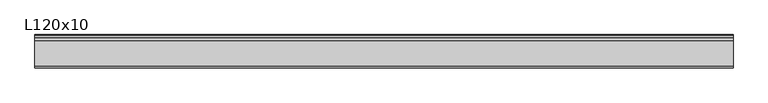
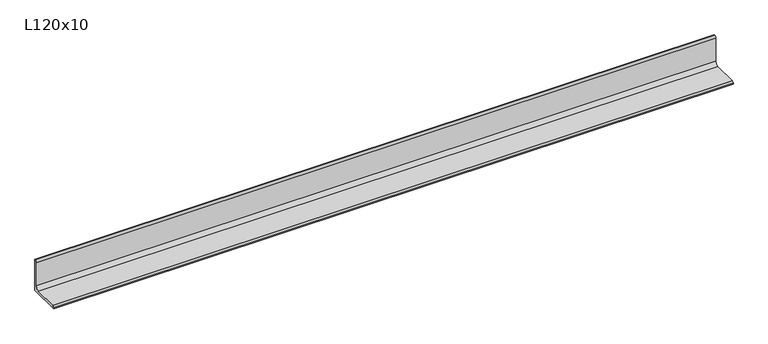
"""IFC4 building model written with IfcOpenShell, lengths in millimetres: beam geometry, L ali uguali : L120x10."""

import ifcopenshell
import ifcopenshell.guid

model = None  # the IFC model being written
_history = None  # IfcOwnerHistory: only IFC2X3 demands one
_inside = {}  # id of a spatial element -> (the spatial element, [elements in it])
_under = {}  # id of a project, library or spatial element -> (it, [spatial elements below it])
_declared = {}  # id of a project -> (the project, [libraries it declares])
_typed = {}  # id of a type object -> (the type object, [elements of that type])
_made_of = {}  # id of a material, layer set ... -> (it, [elements and type objects made of it])


def new_model(schema):
    """Start an empty IFC model of exactly this schema.

    Asked for "IFC4X3", IfcOpenShell would pick the latest addendum, in which some entities
    have other attributes; the version numbers below select the first issue.
    IFC2X3 requires an IfcOwnerHistory on every rooted entity: one is made here for all.
    """
    global model, _history
    if schema == "IFC4X3":
        model = ifcopenshell.file(schema_version=(4, 3, 0, 0))
    else:
        model = ifcopenshell.file(schema=schema)
    _inside.clear()
    _under.clear()
    _declared.clear()
    _typed.clear()
    _made_of.clear()
    _history = None
    if model.schema == "IFC2X3":
        org = make("IfcOrganization", Name="unknown")
        user = make(
            "IfcPersonAndOrganization",
            ThePerson=make("IfcPerson", FamilyName="unknown"),
            TheOrganization=org,
        )
        app = make(
            "IfcApplication",
            ApplicationDeveloper=org,
            Version="unknown",
            ApplicationFullName="unknown",
            ApplicationIdentifier="unknown",
        )
        _history = make(
            "IfcOwnerHistory",
            OwningUser=user,
            OwningApplication=app,
            ChangeAction="ADDED",
            CreationDate=0,
        )
    return model


def make(cls, **values):
    """One entity of the class cls with the attributes given. An attribute that is None is left unset."""
    return model.create_entity(
        cls, **{name: value for name, value in values.items() if value is not None}
    )


def rooted(cls, **values):
    """An entity with a GlobalId (a new one), such as an element, a storey or a relation."""
    return make(cls, GlobalId=ifcopenshell.guid.new(), OwnerHistory=_history, **values)


def si_unit(unit_type, name, prefix=None):
    """IfcSIUnit, for example si_unit("LENGTHUNIT", "METRE", prefix="MILLI")."""
    return make("IfcSIUnit", UnitType=unit_type, Prefix=prefix, Name=name)


def assignment(units):
    """IfcUnitAssignment: the units of a project."""
    return None if units is None else make("IfcUnitAssignment", Units=units)


def point(xyz):
    """IfcCartesianPoint."""
    return None if xyz is None else make("IfcCartesianPoint", Coordinates=xyz)


def direction(xyz):
    """IfcDirection."""
    return None if xyz is None else make("IfcDirection", DirectionRatios=xyz)


def frame(location, z_axis=None, x_axis=None):
    """IfcAxis2Placement3D, a coordinate frame: its origin and axes. An axis left out is left unset."""
    return make(
        "IfcAxis2Placement3D",
        Location=point(location),
        Axis=direction(z_axis),
        RefDirection=direction(x_axis),
    )


def frame_2d(location, x_axis=None):
    """IfcAxis2Placement2D, a coordinate frame in the plane: its origin and x axis."""
    return make(
        "IfcAxis2Placement2D", Location=point(location), RefDirection=direction(x_axis)
    )


def origin():
    """The frame at (0, 0, 0) with its axes left unset."""
    return frame((0.0, 0.0, 0.0))


def place(relative_to, where):
    """IfcLocalPlacement: puts the frame where relative to a parent placement (None: the world)."""
    return make(
        "IfcLocalPlacement", PlacementRelTo=relative_to, RelativePlacement=where
    )


def context(
    kind, dimensions, precision=None, world=None, true_north=None, identifier=None
):
    """IfcGeometricRepresentationContext, for example the 3D "Model" context."""
    return make(
        "IfcGeometricRepresentationContext",
        ContextIdentifier=identifier,
        ContextType=kind,
        CoordinateSpaceDimension=dimensions,
        Precision=precision,
        WorldCoordinateSystem=world,
        TrueNorth=true_north,
    )


def project(units=None, contexts=None):
    """IfcProject with its units and contexts."""
    return rooted(
        "IfcProject",
        Name="project",
        RepresentationContexts=contexts,
        UnitsInContext=assignment(units),
    )


def spatial(cls, under=None, at=None, **own):
    """A site, building, storey or space (cls), placed at a placement, below another one or the project."""
    s = rooted(cls, ObjectPlacement=at, **own)
    if under is not None:
        _under.setdefault(under.id(), (under, []))[1].append(s)
    return s


def polyline(points):
    """IfcPolyline through the points."""
    return make("IfcPolyline", Points=[point(p) for p in points])


def circle_curve(where, radius):
    """IfcCircle in the frame where."""
    return make("IfcCircle", Position=where, Radius=radius)


def trimmed(basis, trim1, trim2, sense, master):
    """IfcTrimmedCurve: the piece of a basis curve between two trims."""
    return make(
        "IfcTrimmedCurve",
        BasisCurve=basis,
        Trim1=trim1,
        Trim2=trim2,
        SenseAgreement=sense,
        MasterRepresentation=master,
    )


def segment(curve, same_sense, transition):
    """IfcCompositeCurveSegment."""
    return make(
        "IfcCompositeCurveSegment",
        Transition=transition,
        SameSense=same_sense,
        ParentCurve=curve,
    )


def composite_curve(segments, self_intersect=None):
    """IfcCompositeCurve: segments joined end to end."""
    return make("IfcCompositeCurve", Segments=segments, SelfIntersect=self_intersect)


def outline(outer, holes=None, kind="AREA"):
    """IfcArbitraryClosedProfileDef: a profile drawn as a closed curve; with holes, ...WithVoids."""
    if holes is None:
        return make("IfcArbitraryClosedProfileDef", ProfileType=kind, OuterCurve=outer)
    return make(
        "IfcArbitraryProfileDefWithVoids",
        ProfileType=kind,
        OuterCurve=outer,
        InnerCurves=holes,
    )


def extrude(swept, where, along, depth):
    """IfcExtrudedAreaSolid: the profile swept, set in the frame where, extruded along a direction by depth."""
    return make(
        "IfcExtrudedAreaSolid",
        SweptArea=swept,
        Position=where,
        ExtrudedDirection=direction(along),
        Depth=depth,
    )


def shape(context_of_items, identifier, shape_type, items):
    """IfcShapeRepresentation: the items that make up one representation, for example the "Body"."""
    return make(
        "IfcShapeRepresentation",
        ContextOfItems=context_of_items,
        RepresentationIdentifier=identifier,
        RepresentationType=shape_type,
        Items=items,
    )


def source(mapping_origin, context_of_items, identifier, shape_type, items):
    """IfcRepresentationMap: a shape defined once, which mapped items show again and again."""
    return make(
        "IfcRepresentationMap",
        MappingOrigin=mapping_origin,
        MappedRepresentation=shape(context_of_items, identifier, shape_type, items),
    )


def transform(
    local_origin,
    x_axis=None,
    y_axis=None,
    z_axis=None,
    scale=None,
    scale2=None,
    scale3=None,
    uniform=True,
):
    """IfcCartesianTransformationOperator3D, or its non-uniform kind. x_axis, y_axis, z_axis: its Axis1, 2, 3."""
    if uniform:
        return make(
            "IfcCartesianTransformationOperator3D",
            Axis1=direction(x_axis),
            Axis2=direction(y_axis),
            LocalOrigin=point(local_origin),
            Scale=scale,
            Axis3=direction(z_axis),
        )
    return make(
        "IfcCartesianTransformationOperator3DnonUniform",
        Axis1=direction(x_axis),
        Axis2=direction(y_axis),
        LocalOrigin=point(local_origin),
        Scale=scale,
        Axis3=direction(z_axis),
        Scale2=scale2,
        Scale3=scale3,
    )


def mapped(mapping_source, mapping_target):
    """IfcMappedItem: shows the shape of a source again, moved by a transform."""
    return make(
        "IfcMappedItem", MappingSource=mapping_source, MappingTarget=mapping_target
    )


def made_of(thing, what):
    """Note that an element or type object is made of a material, layer set ...; save() writes the relation."""
    if what is not None:
        _made_of.setdefault(what.id(), (what, []))[1].append(thing)
    return thing


def element(
    cls,
    number,
    at=None,
    inside=None,
    cuts=None,
    type_object=None,
    material=None,
    context=None,
    identifier="Body",
    shape_type=None,
    held_by="IfcProductDefinitionShape",
    body=None,
    shapes=None,
    **own,
):
    """One element of the class cls, such as IfcWall. Its Tag is "e" and its number.

    at: its placement. inside: the storey or other place that contains it. cuts: it is an
    opening in that element (IfcRelVoidsElement). A single representation is given by context,
    identifier, shape_type and body (its items); several are given by shapes. held_by: the class
    of the entity that holds the representations. save() writes the other relations.
    """
    e = rooted(cls, Tag="e%d" % number, ObjectPlacement=at, **own)
    if body is not None:
        shapes = [shape(context, identifier, shape_type, body)]
    if shapes is not None:
        e.Representation = make(held_by, Representations=shapes)
    if inside is not None:
        _inside.setdefault(inside.id(), (inside, []))[1].append(e)
    if cuts is not None:
        rooted(
            "IfcRelVoidsElement", RelatingBuildingElement=cuts, RelatedOpeningElement=e
        )
    if type_object is not None:
        _typed.setdefault(type_object.id(), (type_object, []))[1].append(e)
    return made_of(e, material)


def aggregate(whole, parts):
    """IfcRelAggregates: a whole, such as a stair, and the parts it consists of."""
    return rooted("IfcRelAggregates", RelatingObject=whole, RelatedObjects=parts)


def save(model, path):
    """Write the relations noted so far, then the file.

    IfcRelAggregates (storeys below a building ...), IfcRelContainedInSpatialStructure (elements
    in a storey), IfcRelDefinesByType, IfcRelAssociatesMaterial and IfcRelDeclares: one each for
    every whole, place, type object, material and project.
    """
    for whole, parts in _under.values():
        aggregate(whole, parts)
    for where, things in _inside.values():
        rooted(
            "IfcRelContainedInSpatialStructure",
            RelatedElements=things,
            RelatingStructure=where,
        )
    for kind, things in _typed.values():
        rooted("IfcRelDefinesByType", RelatedObjects=things, RelatingType=kind)
    for what, things in _made_of.values():
        rooted("IfcRelAssociatesMaterial", RelatedObjects=things, RelatingMaterial=what)
    for by, libraries in _declared.values():
        rooted("IfcRelDeclares", RelatingContext=by, RelatedDefinitions=libraries)
    model.write(path)


def l120x10_cbca3082(model_context):
    return source(origin(), model_context, "Body", "SweptSolid", [
        extrude(outline(composite_curve([segment(polyline([(41.2, -41.2), (-108.8, -41.2), (-108.8, -37.2)]), True, "CONTINUOUS"), segment(trimmed(circle_curve(frame_2d((-100.8, -37.2)), 8.0), [point((-108.8, -37.2))], [point((-100.8, -29.2))], False, "CARTESIAN"), True, "CONTINUOUS"), segment(polyline([(-100.8, -29.2), (13.2, -29.2)]), True, "CONTINUOUS"), segment(trimmed(circle_curve(frame_2d((13.2, -13.2)), 16.0), [point((13.2, -29.2))], [point((29.2, -13.2))], True, "CARTESIAN"), True, "CONTINUOUS"), segment(polyline([(29.2, -13.2), (29.2, 100.8)]), True, "CONTINUOUS"), segment(trimmed(circle_curve(frame_2d((37.2, 100.8)), 8.0), [point((29.2, 100.8))], [point((37.2, 108.8))], False, "CARTESIAN"), True, "CONTINUOUS"), segment(polyline([(37.2, 108.8), (41.2, 108.8), (41.2, -41.2)]), True, "CONTINUOUS")], self_intersect=False)), frame((-1579.2, 0.0, 0.0), z_axis=(1.0, 0.0, 0.0), x_axis=(0.0, 1.0, 0.0)), (0.0, 0.0, 1.0), 3146.0),
    ])


if __name__ == "__main__":
    model = new_model("IFC4")
    model_context = context("Model", 3, world=origin())
    ifc_project = project(units=[si_unit("LENGTHUNIT", "METRE", prefix="MILLI")], contexts=[model_context])
    site = spatial("IfcSite", under=ifc_project)
    building = spatial("IfcBuilding", under=site)
    placement = place(None, origin())
    l120x10_shape = l120x10_cbca3082(model_context)
    element("IfcBeam", 1, ObjectType="L ali uguali : L120x10", at=placement, inside=building, context=model_context, shape_type="MappedRepresentation", body=[
        mapped(l120x10_shape, transform((0.0, 0.0, 0.0), x_axis=(1.0, 0.0, 0.0), y_axis=(0.0, 1.0, 0.0), z_axis=(0.0, 0.0, 1.0))),
    ])
    save(model, "model.ifc")
